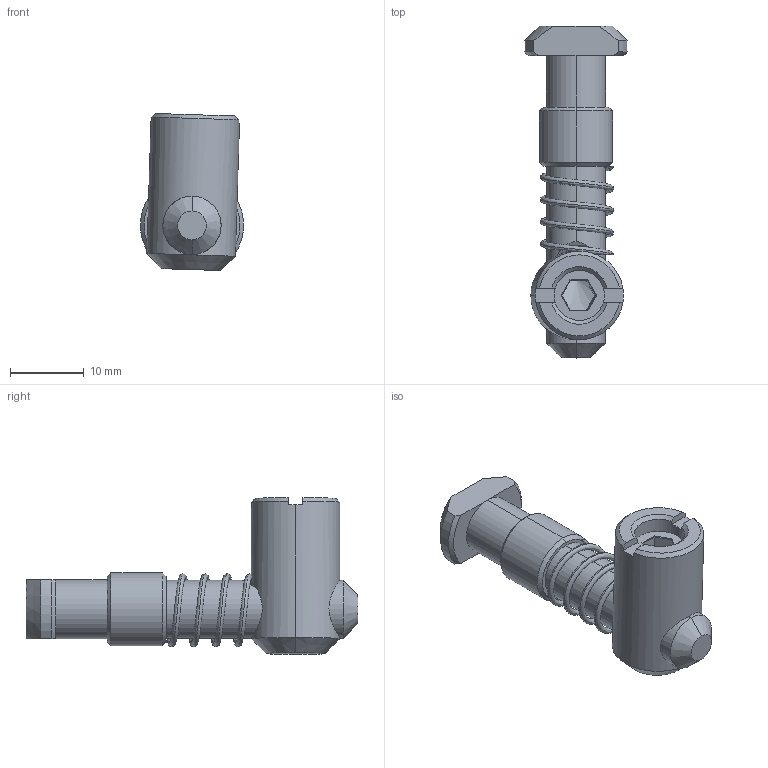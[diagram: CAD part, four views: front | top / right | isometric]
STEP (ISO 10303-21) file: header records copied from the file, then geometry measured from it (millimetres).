
FILE_DESCRIPTION (( 'STEP AP214' ), '1' );
FILE_NAME ('2.03.spsc.STEP', '2015-05-30T09:25:21', ( '' ), ( '' ), 'SwSTEP 2.0', 'SolidWorks 2015', '' );
FILE_SCHEMA (( 'AUTOMOTIVE_DESIGN' ));
Length unit declared in the file: millimetre
Products named in the file (1): 2.03.spsc
Bounding box: 13.95 x 45 x 21.29 mm (x, y, z)
Surface area: 3103.3 mm2 (no closed solid volume)
Topology: 0 solids, 4 shells, 66 faces, 164 edges, 103 vertices
Faces by surface type: plane 32, cone 18, cylinder 14, bspline 2
Entity records: 3350 total; most frequent: CARTESIAN_POINT 1786, ORIENTED_EDGE 316, DIRECTION 306, EDGE_CURVE 162, AXIS2_PLACEMENT_3D 113, VERTEX_POINT 103, LINE 80, VECTOR 80
